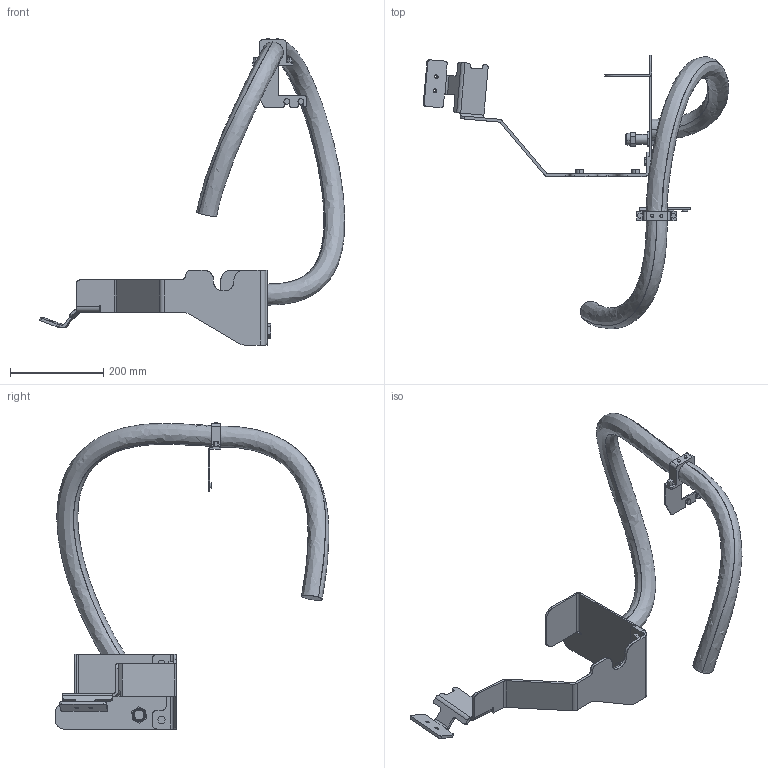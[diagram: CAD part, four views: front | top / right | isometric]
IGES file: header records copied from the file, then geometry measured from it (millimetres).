
Start section: SolidWorks IGES file using analytic representation for surfaces
Global section: file name: C:\Users\SEALDUN\OneDrive - ABB\Documents\R&D Robotics\Work Items\WI 632927 light weight hole removal\IGES\IRB5720-LID-MH_90kg-300_OC_03_IGES_J\IRB5720-LID-MH_90kg-300_OC_01_LINK03a_CABLE.igs; native system: SolidWorks 2024; preprocessor: SolidWorks 2024; author: SEALDUN; date: 250708.122943; units: millimetre
Bounding box: 654.26 x 586.67 x 655.5 mm (x, y, z)
Surface area: 440841.2 mm2 (no closed solid volume)
Topology: 0 solids, 0 shells, 268 faces, 3539 edges, 3539 vertices
Faces by surface type: bspline 162, revolution 106
